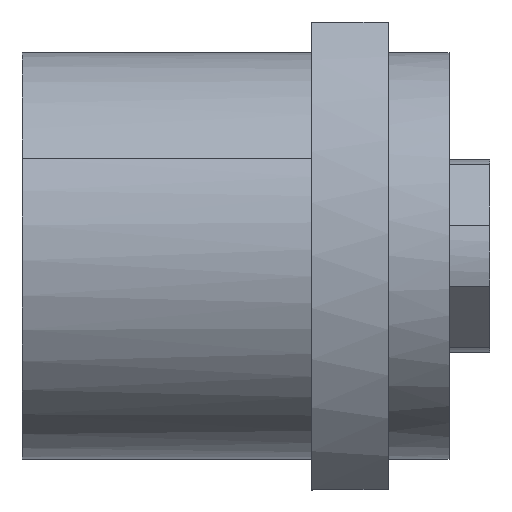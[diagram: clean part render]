
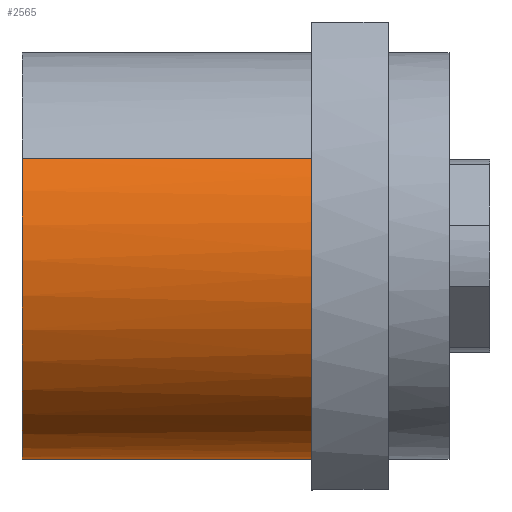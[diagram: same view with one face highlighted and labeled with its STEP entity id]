
A CAD part, top view. The second image highlights one B-rep face of the part: STEP entity #2565.
In plain terms, the highlighted cylindrical face has radius 40 mm (diameter 80 mm), a partial arc.
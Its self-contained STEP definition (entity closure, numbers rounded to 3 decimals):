
#1683=CARTESIAN_POINT('Vertex',(-15.,19.177,35.103)) ;
#1685=CARTESIAN_POINT('Vertex',(-15.,-19.177,-35.103)) ;
#1689=CARTESIAN_POINT('Control Point',(-15.,-19.177,-35.103)) ;
#1690=CARTESIAN_POINT('Control Point',(-15.,-22.44,-33.321)) ;
#1691=CARTESIAN_POINT('Control Point',(-15.,-25.496,-31.159)) ;
#1692=CARTESIAN_POINT('Control Point',(-15.,-28.286,-28.65)) ;
#1693=CARTESIAN_POINT('Control Point',(-15.,-33.232,-23.031)) ;
#1694=CARTESIAN_POINT('Control Point',(-15.,-36.757,-16.427)) ;
#1695=CARTESIAN_POINT('Control Point',(-15.,-38.127,-12.934)) ;
#1696=CARTESIAN_POINT('Control Point',(-15.,-40.029,-5.693)) ;
#1697=CARTESIAN_POINT('Control Point',(-15.,-40.221,1.79)) ;
#1698=CARTESIAN_POINT('Control Point',(-15.,-39.88,5.527)) ;
#1699=CARTESIAN_POINT('Control Point',(-15.,-38.335,12.852)) ;
#1700=CARTESIAN_POINT('Control Point',(-15.,-35.152,19.628)) ;
#1701=CARTESIAN_POINT('Control Point',(-15.,-33.172,22.815)) ;
#1702=CARTESIAN_POINT('Control Point',(-15.,-28.508,28.671)) ;
#1703=CARTESIAN_POINT('Control Point',(-15.,-22.626,33.301)) ;
#1704=CARTESIAN_POINT('Control Point',(-15.,-19.428,35.263)) ;
#1705=CARTESIAN_POINT('Control Point',(-15.,-12.634,38.407)) ;
#1706=CARTESIAN_POINT('Control Point',(-15.,-5.301,39.91)) ;
#1707=CARTESIAN_POINT('Control Point',(-15.,-1.562,40.23)) ;
#1708=CARTESIAN_POINT('Control Point',(-15.,5.021,40.024)) ;
#1709=CARTESIAN_POINT('Control Point',(-15.,11.408,38.495)) ;
#1710=CARTESIAN_POINT('Control Point',(-15.,14.1,37.593)) ;
#1711=CARTESIAN_POINT('Control Point',(-15.,16.698,36.457)) ;
#1712=CARTESIAN_POINT('Control Point',(-15.,19.177,35.103)) ;
#2523=CARTESIAN_POINT('Line Origine',(-81.281,19.177,35.103)) ;
#2527=CARTESIAN_POINT('Vertex',(-72.,19.177,35.103)) ;
#2530=CARTESIAN_POINT('Line Origine',(-81.281,-19.177,-35.103)) ;
#2534=CARTESIAN_POINT('Vertex',(-72.,-19.177,-35.103)) ;
#2549=CARTESIAN_POINT('Axis2P3D Location',(-81.281,0.,0.)) ;
#2554=CARTESIAN_POINT('Axis2P3D Location',(-72.,0.,0.)) ;
#2524=DIRECTION('Vector Direction',(-1.,0.,0.)) ;
#2531=DIRECTION('Vector Direction',(-1.,0.,0.)) ;
#2550=DIRECTION('Axis2P3D Direction',(-1.,0.,0.)) ;
#2551=DIRECTION('Axis2P3D XDirection',(0.,-0.479,-0.878)) ;
#2555=DIRECTION('Axis2P3D Direction',(-1.,0.,0.)) ;
#2552=AXIS2_PLACEMENT_3D('Cylinder Axis2P3D',#2549,#2550,#2551) ;
#2556=AXIS2_PLACEMENT_3D('Circle Axis2P3D',#2554,#2555,$) ;
#2560=ORIENTED_EDGE('',*,*,#2536,.F.) ;
#2561=ORIENTED_EDGE('',*,*,#1713,.T.) ;
#2562=ORIENTED_EDGE('',*,*,#2529,.T.) ;
#2563=ORIENTED_EDGE('',*,*,#2558,.T.) ;
#2525=VECTOR('Line Direction',#2524,1.) ;
#2532=VECTOR('Line Direction',#2531,1.) ;
#2565=ADVANCED_FACE('FK25DFT(H)',(#2564),#2553,.T.) ;
#1688=B_SPLINE_CURVE_WITH_KNOTS('',5,(#1689,#1690,#1691,#1692,#1693,#1694,#1695,#1696,#1697,#1698,#1699,#1700,#1701,#1702,#1703,#1704,#1705,#1706,#1707,#1708,#1709,#1710,#1711,#1712),.UNSPECIFIED.,.F.,.U.,(6,3,3,3,3,3,3,6),(0.,26.29,52.581,78.871,105.162,131.452,157.743,177.714),.UNSPECIFIED.) ;
#2557=CIRCLE('generated circle',#2556,40.) ;
#2553=CYLINDRICAL_SURFACE('generated cylinder',#2552,40.) ;
#1713=EDGE_CURVE('',#1686,#1684,#1688,.T.) ;
#2529=EDGE_CURVE('',#1684,#2528,#2526,.T.) ;
#2536=EDGE_CURVE('',#1686,#2535,#2533,.T.) ;
#2558=EDGE_CURVE('',#2528,#2535,#2557,.F.) ;
#2559=EDGE_LOOP('',(#2560,#2561,#2562,#2563)) ;
#2564=FACE_OUTER_BOUND('',#2559,.T.) ;
#2526=LINE('Line',#2523,#2525) ;
#2533=LINE('Line',#2530,#2532) ;
#1684=VERTEX_POINT('',#1683) ;
#1686=VERTEX_POINT('',#1685) ;
#2528=VERTEX_POINT('',#2527) ;
#2535=VERTEX_POINT('',#2534) ;
